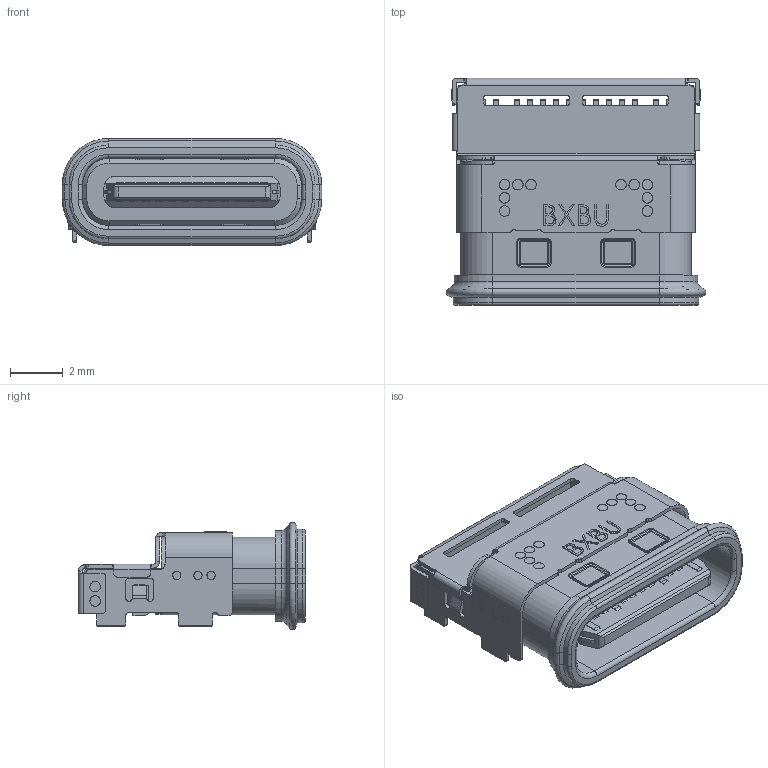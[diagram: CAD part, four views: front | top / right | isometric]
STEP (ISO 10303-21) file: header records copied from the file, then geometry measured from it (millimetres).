
FILE_DESCRIPTION((' '),'2;1');
FILE_NAME( 'U5175-24PN8.65LF.stp', '2026-05-09T15:17:08', (' '), ('--- ---'), ' V2026.1 Dec 31 2025', ' 2026 (c)', ' ');
FILE_SCHEMA(('AP242_MANAGED_MODEL_BASED_3D_ENGINEERING_MIM_LF { 1 0 10303 442 1 1 4 }'));
Length unit declared in the file: millimetre
Products named in the file (3): type_c24p防水_加长内壳-3d; U5175-24PN8.65LF(2); U5175-24PN8.65LF
Assembly tree (2 placements, depth 3):
  U5175-24PN8.65LF
    U5175-24PN8.65LF(2)
      type_c24p防水_加长内壳-3d
Bounding box: 9.85 x 8.65 x 4.07 mm (x, y, z)
Volume: 113.4 mm3; surface area: 679.5 mm2
Topology: 1 solids, 4 shells, 1415 faces, 3900 edges, 2515 vertices
Faces by surface type: plane 876, cylinder 390, torus 64, bspline 35, cone 32, sphere 18
Entity records: 47962 total; most frequent: CARTESIAN_POINT 12074, ORIENTED_EDGE 7800, DIRECTION 7088, EDGE_CURVE 3900, VECTOR 2596, LINE 2596, VERTEX_POINT 2515, AXIS2_PLACEMENT_3D 2246
